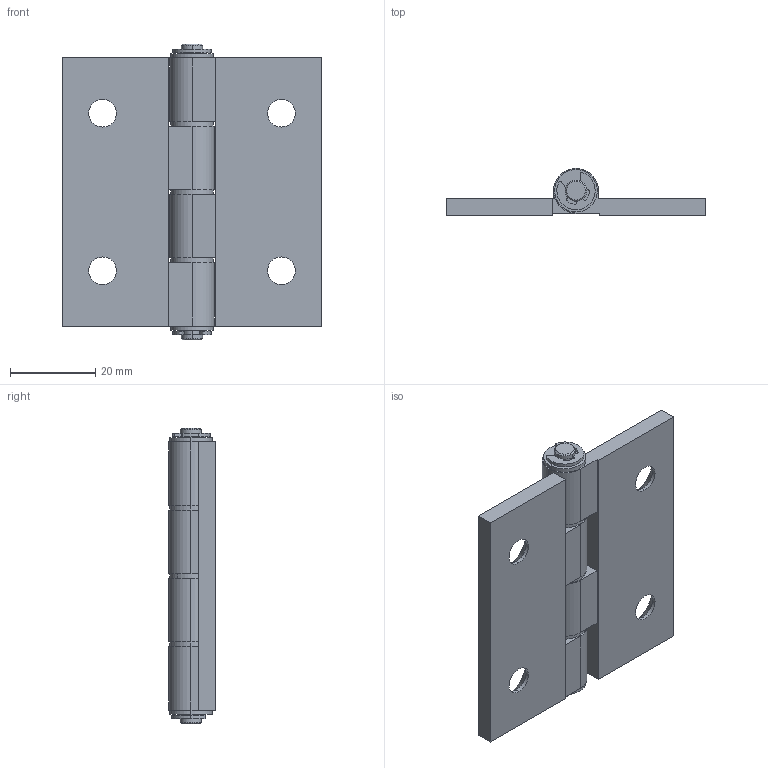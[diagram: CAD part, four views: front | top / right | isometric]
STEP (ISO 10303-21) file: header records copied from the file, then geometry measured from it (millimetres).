
FILE_DESCRIPTION (( 'STEP AP203' ), '1' );
FILE_NAME ('SK2-168-16.STEP', '2020-01-03T01:31:02', ( 'admin' ), ( 'Microsoft' ), 'SwSTEP 2.0', 'SolidWorks 2018', '' );
FILE_SCHEMA (( 'CONFIG_CONTROL_DESIGN' ));
Length unit declared in the file: millimetre
Products named in the file (5): 2-168-16-F1; 2-168-16-F3; 2-168-16-F4; e rings gb_GB_CONNECTING_PIECE_RINGS_HR 4; SK2-168-16
Assembly tree (10 placements, depth 2):
  SK2-168-16
    2-168-16-F1  x2
    2-168-16-F3
    2-168-16-F4  x5
    e rings gb_GB_CONNECTING_PIECE_RINGS_HR 4  x2
Bounding box: 61 x 11 x 69.5 mm (x, y, z)
Volume: 17654.5 mm3; surface area: 13099.7 mm2
Topology: 10 solids, 10 shells, 156 faces, 384 edges, 252 vertices
Faces by surface type: cylinder 86, plane 58, cone 12
Entity records: 3090 total; most frequent: DIRECTION 469, CARTESIAN_POINT 411, ORIENTED_EDGE 386, EDGE_CURVE 193, AXIS2_PLACEMENT_3D 184, VERTEX_POINT 126, LINE 101, VECTOR 101
